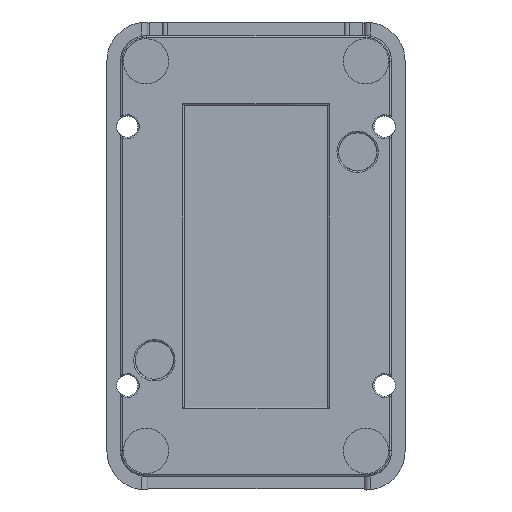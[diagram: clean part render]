
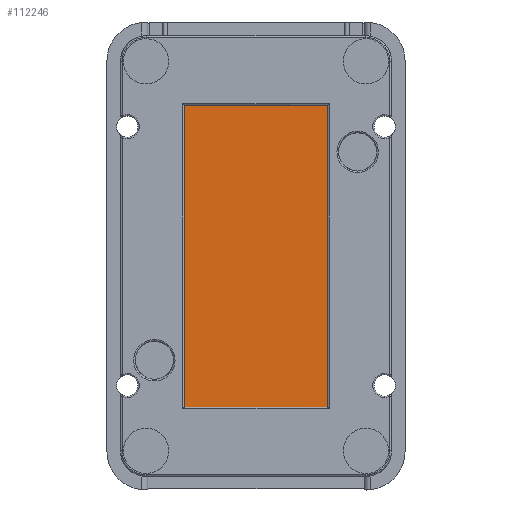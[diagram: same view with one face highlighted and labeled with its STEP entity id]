
A CAD part, front view. The second image highlights one B-rep face of the part: STEP entity #112246.
In plain terms, the highlighted planar face has unit normal (0, -1, 0).
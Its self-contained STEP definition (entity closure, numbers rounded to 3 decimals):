
#751 = CARTESIAN_POINT ( 'NONE',  ( 49.804, 17.285, 6.875 ) ) ;
#2694 = ORIENTED_EDGE ( 'NONE', *, *, #40455, .T. ) ;
#3082 = CARTESIAN_POINT ( 'NONE',  ( 27.604, 17.285, 6.875 ) ) ;
#12779 = DIRECTION ( 'NONE',  ( 0., 0., 1. ) ) ;
#28377 = FACE_OUTER_BOUND ( 'NONE', #31016, .T. ) ;
#31016 = EDGE_LOOP ( 'NONE', ( #2694, #182193, #90512, #186556 ) ) ;
#35287 = LINE ( 'NONE', #78782, #231436 ) ;
#37374 = VECTOR ( 'NONE', #217310, 1000. ) ;
#40455 = EDGE_CURVE ( 'NONE', #230296, #186692, #261197, .T. ) ;
#44019 = VERTEX_POINT ( 'NONE', #51093 ) ;
#51093 = CARTESIAN_POINT ( 'NONE',  ( 27.604, 17.285, 53.575 ) ) ;
#54960 = DIRECTION ( 'NONE',  ( -1., 0., 0. ) ) ;
#58630 = VECTOR ( 'NONE', #210023, 1000. ) ;
#73136 = CARTESIAN_POINT ( 'NONE',  ( 38.704, 17.285, 30.225 ) ) ;
#77830 = LINE ( 'NONE', #207358, #278529 ) ;
#78782 = CARTESIAN_POINT ( 'NONE',  ( 27.604, 17.285, 53.575 ) ) ;
#90512 = ORIENTED_EDGE ( 'NONE', *, *, #169373, .T. ) ;
#100264 = DIRECTION ( 'NONE',  ( 1., 0., 0. ) ) ;
#112246 = ADVANCED_FACE ( 'NONE', ( #28377 ), #204079, .F. ) ;
#114424 = CARTESIAN_POINT ( 'NONE',  ( 49.804, 17.285, 6.875 ) ) ;
#118933 = EDGE_CURVE ( 'NONE', #186692, #44019, #35287, .T. ) ;
#145169 = LINE ( 'NONE', #191633, #58630 ) ;
#164241 = CARTESIAN_POINT ( 'NONE',  ( 49.804, 17.285, 53.575 ) ) ;
#164247 = AXIS2_PLACEMENT_3D ( 'NONE', #73136, #178744, #12779 ) ;
#169373 = EDGE_CURVE ( 'NONE', #44019, #258414, #145169, .T. ) ;
#178744 = DIRECTION ( 'NONE',  ( 0., 1., 0. ) ) ;
#182193 = ORIENTED_EDGE ( 'NONE', *, *, #118933, .T. ) ;
#186556 = ORIENTED_EDGE ( 'NONE', *, *, #200717, .T. ) ;
#186692 = VERTEX_POINT ( 'NONE', #164241 ) ;
#191633 = CARTESIAN_POINT ( 'NONE',  ( 27.604, 17.285, 6.875 ) ) ;
#200717 = EDGE_CURVE ( 'NONE', #258414, #230296, #77830, .T. ) ;
#204079 = PLANE ( 'NONE',  #164247 ) ;
#207358 = CARTESIAN_POINT ( 'NONE',  ( 27.604, 17.285, 6.875 ) ) ;
#210023 = DIRECTION ( 'NONE',  ( 0., 0., -1. ) ) ;
#217310 = DIRECTION ( 'NONE',  ( 0., 0., 1. ) ) ;
#230296 = VERTEX_POINT ( 'NONE', #751 ) ;
#231436 = VECTOR ( 'NONE', #54960, 1000. ) ;
#258414 = VERTEX_POINT ( 'NONE', #3082 ) ;
#261197 = LINE ( 'NONE', #114424, #37374 ) ;
#278529 = VECTOR ( 'NONE', #100264, 1000. ) ;
